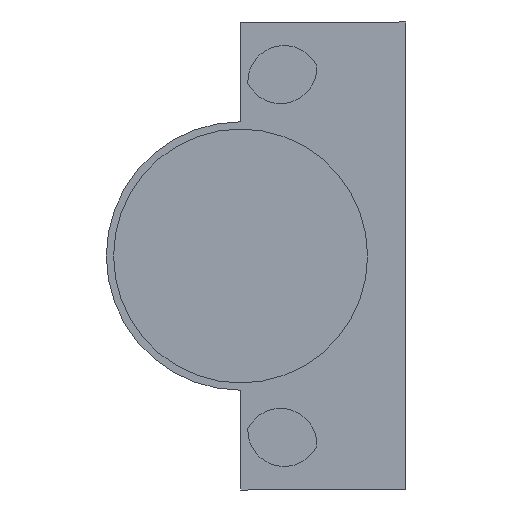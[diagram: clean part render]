
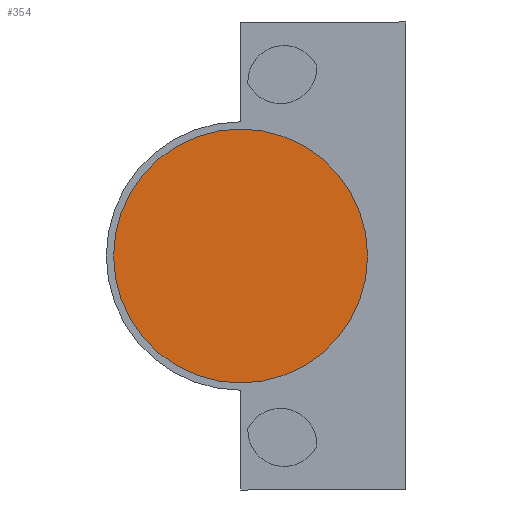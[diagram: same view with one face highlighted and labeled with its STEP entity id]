
A CAD part, front view. The second image highlights one B-rep face of the part: STEP entity #354.
In plain terms, the highlighted planar face has unit normal (0, -1, 0).
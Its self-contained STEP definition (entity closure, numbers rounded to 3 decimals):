
#94 = CIRCLE ( 'NONE', #523, 17.5 ) ;
#211 = DIRECTION ( 'NONE',  ( 0., -1., 0. ) ) ;
#290 = FACE_OUTER_BOUND ( 'NONE', #866, .T. ) ;
#354 = ADVANCED_FACE ( 'NONE', ( #290 ), #1175, .T. ) ;
#421 = AXIS2_PLACEMENT_3D ( 'NONE', #1116, #211, #444 ) ;
#444 = DIRECTION ( 'NONE',  ( 1., 0., 0. ) ) ;
#449 = CARTESIAN_POINT ( 'NONE',  ( 2.5, -51.1, 0. ) ) ;
#468 = ORIENTED_EDGE ( 'NONE', *, *, #1174, .T. ) ;
#523 = AXIS2_PLACEMENT_3D ( 'NONE', #449, #1243, #906 ) ;
#602 = VERTEX_POINT ( 'NONE', #1012 ) ;
#705 = EDGE_CURVE ( 'NONE', #747, #602, #94, .T. ) ;
#747 = VERTEX_POINT ( 'NONE', #1299 ) ;
#760 = CIRCLE ( 'NONE', #421, 17.5 ) ;
#866 = EDGE_LOOP ( 'NONE', ( #468, #1249 ) ) ;
#906 = DIRECTION ( 'NONE',  ( 1., 0., 0. ) ) ;
#970 = CARTESIAN_POINT ( 'NONE',  ( 2.5, -51.1, 0. ) ) ;
#1012 = CARTESIAN_POINT ( 'NONE',  ( -15., -51.1, 0. ) ) ;
#1116 = CARTESIAN_POINT ( 'NONE',  ( 2.5, -51.1, 0. ) ) ;
#1174 = EDGE_CURVE ( 'NONE', #602, #747, #760, .T. ) ;
#1175 = PLANE ( 'NONE',  #1224 ) ;
#1224 = AXIS2_PLACEMENT_3D ( 'NONE', #970, #1303, #1412 ) ;
#1243 = DIRECTION ( 'NONE',  ( 0., -1., 0. ) ) ;
#1249 = ORIENTED_EDGE ( 'NONE', *, *, #705, .T. ) ;
#1299 = CARTESIAN_POINT ( 'NONE',  ( 20., -51.1, 0. ) ) ;
#1303 = DIRECTION ( 'NONE',  ( 0., -1., 0. ) ) ;
#1412 = DIRECTION ( 'NONE',  ( 1., 0., 0. ) ) ;
